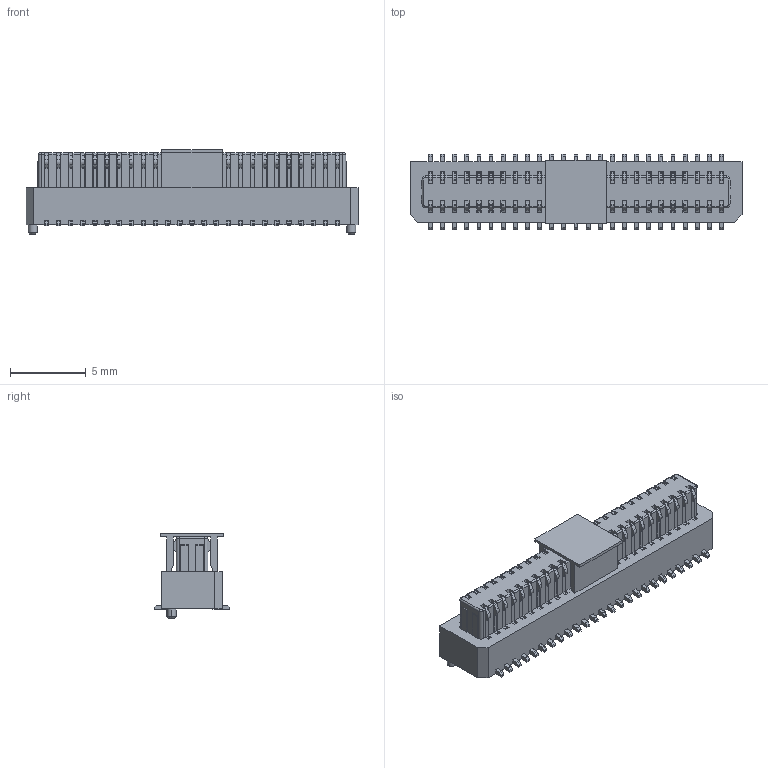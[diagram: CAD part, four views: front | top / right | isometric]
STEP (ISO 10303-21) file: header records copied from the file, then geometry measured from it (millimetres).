
FILE_DESCRIPTION(('CATIA V5 STEP Exchange'),'2;1');
FILE_NAME('F:\黄富鸿\板对板\PBB08B\公座\H4.8\带盖\HC-PBB08B-1-50-M-H4.8-XX-R-P-06 (BTB0.8 单槽 B型公座 立贴 带柱 编带+盖)-HCTL.stp','2026-01-27T08:02:06+00:00',('none'),('none'),'CATIA Version 5 Release 20 GA (IN-10)','CATIA V5 STEP AP203','none');
FILE_SCHEMA(('CONFIG_CONTROL_DESIGN'));
Products named in the file (1): Part1
Bounding box: 21.9 x 5 x 5.55 mm (x, y, z)
Volume: 308 mm3; surface area: 1392.5 mm2
Topology: 52 solids, 52 shells, 2717 faces, 8018 edges, 5308 vertices
Faces by surface type: plane 1847, cylinder 862, cone 4, torus 4
Entity records: 83536 total; most frequent: ORIENTED_EDGE 16036, CARTESIAN_POINT 15024, DIRECTION 11412, EDGE_CURVE 8018, VECTOR 6286, LINE 6286, VERTEX_POINT 5308, AXIS2_PLACEMENT_3D 3430
